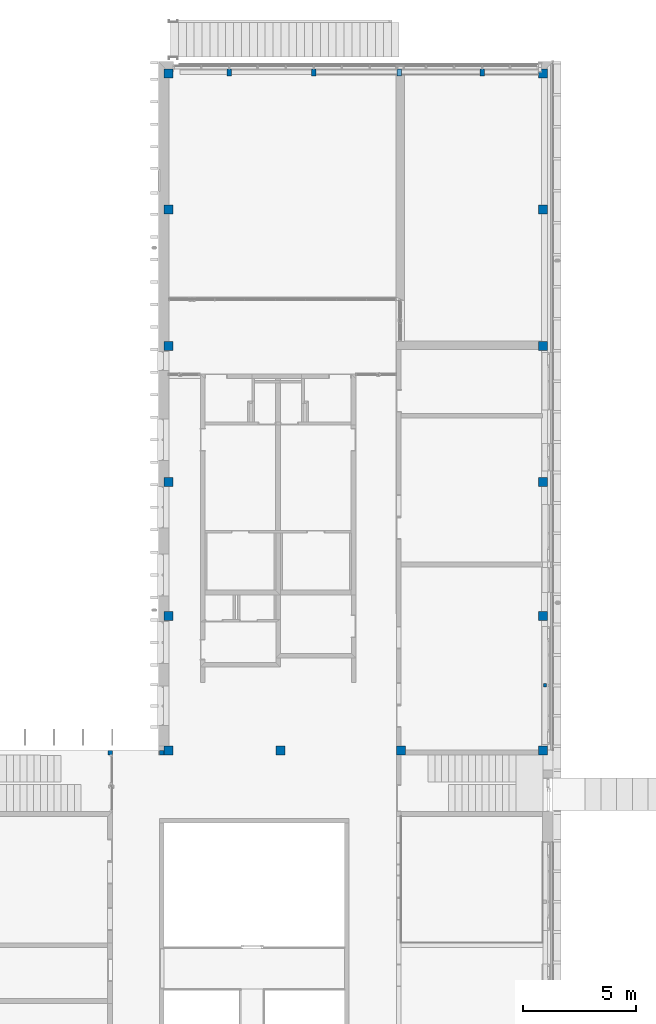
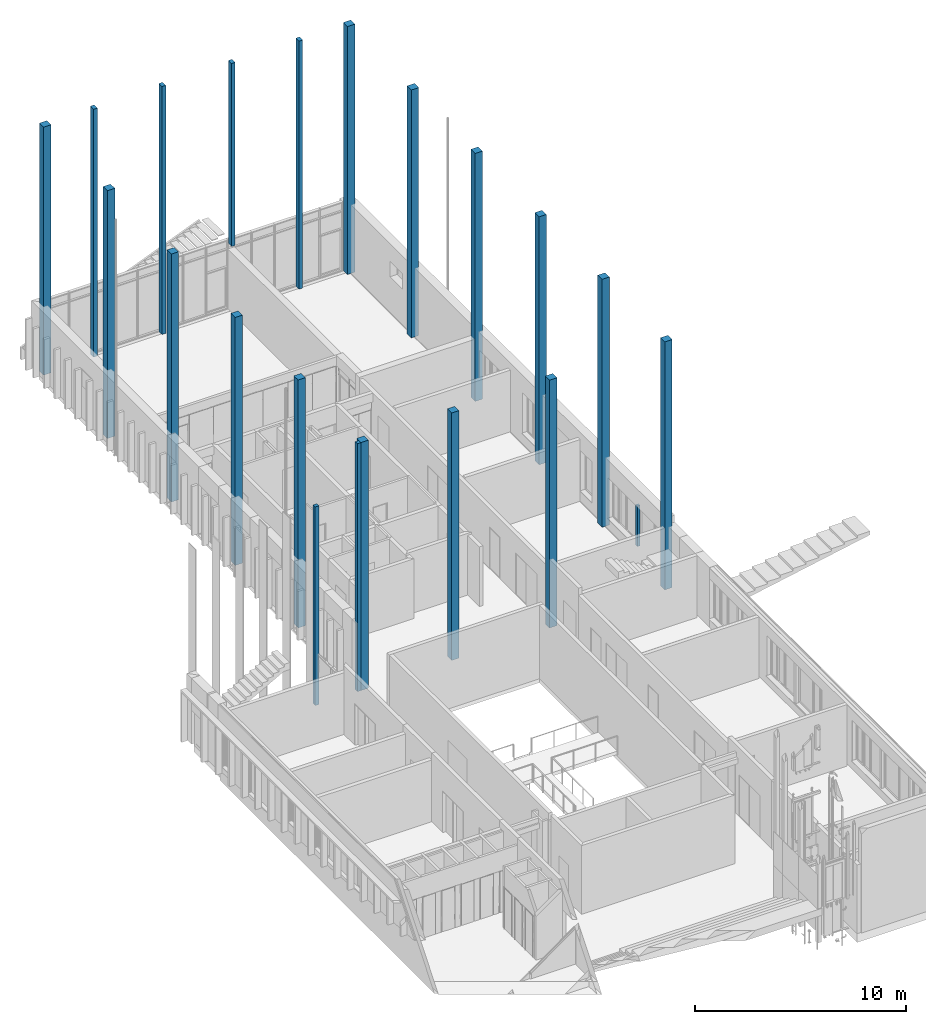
# One storey, part 2 of 89: 22 columns.
"""IFC2X3 building model written with IfcOpenShell, lengths in millimetres."""

from ifc_helpers import new_model, entity, si_unit, converted_unit, derived_unit, money_unit, direction, frame, origin_with_axes, origin_2d_with_axis, place, context, subcontext, project, spatial, rectangle, extrude, material, type_object, element, save


model = new_model("IFC2X3")

# Units and contexts
model_context = context("Model", 3, precision=0.01, world=origin_with_axes(), true_north=direction((0.0, 1.0)))
body_context = subcontext(model_context, "Body", "Model", "MODEL_VIEW")
ifc_project = project(units=[si_unit("LENGTHUNIT", "METRE", prefix="MILLI"), si_unit("AREAUNIT", "SQUARE_METRE"), si_unit("VOLUMEUNIT", "CUBIC_METRE"), converted_unit("PLANEANGLEUNIT", "DEGREE", entity("IfcPlaneAngleMeasure", 0.0174532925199), si_unit("PLANEANGLEUNIT", "RADIAN"), dimensions=[0, 0, 0, 0, 0, 0, 0]), si_unit("SOLIDANGLEUNIT", "STERADIAN"), money_unit("EUR"), converted_unit("TIMEUNIT", "Year", entity("IfcTimeMeasure", 31556926.0), si_unit("TIMEUNIT", "SECOND"), dimensions=[0, 0, 1, 0, 0, 0, 0]), si_unit("MASSUNIT", "GRAM", prefix="KILO"), si_unit("THERMODYNAMICTEMPERATUREUNIT", "DEGREE_CELSIUS"), si_unit("LUMINOUSINTENSITYUNIT", "LUMEN"), si_unit("ENERGYUNIT", "JOULE", prefix="MEGA"), derived_unit("THERMALCONDUCTANCEUNIT", [(si_unit("POWERUNIT", "WATT"), 1), (si_unit("LENGTHUNIT", "METRE"), -1), (si_unit("THERMODYNAMICTEMPERATUREUNIT", "KELVIN"), -1)]), derived_unit("SPECIFICHEATCAPACITYUNIT", [(si_unit("ENERGYUNIT", "JOULE"), 1), (si_unit("MASSUNIT", "GRAM", prefix="KILO"), -1), (si_unit("THERMODYNAMICTEMPERATUREUNIT", "KELVIN"), -1)]), derived_unit("MASSDENSITYUNIT", [(si_unit("MASSUNIT", "GRAM", prefix="KILO"), 1), (si_unit("VOLUMEUNIT", "CUBIC_METRE"), -1)])], contexts=[model_context])

# Site, building, storey
site_placement = place(None, origin_with_axes())
site = spatial("IfcSite", under=ifc_project, at=site_placement, Name="Puškini 31, Narva", CompositionType="ELEMENT")
building_placement = place(site_placement, origin_with_axes())
building = spatial("IfcBuilding", under=site, at=building_placement, Name="Narva Riigigümnaasium", CompositionType="ELEMENT")
storey_placement = place(building_placement, frame((0.0, 0.0, -3300.0), z_axis=(0.0, 0.0, 1.0), x_axis=(1.0, 0.0, 0.0)))
storey = spatial("IfcBuildingStorey", under=building, at=storey_placement, Name="1.korrus -3.3", CompositionType="ELEMENT", Elevation=-3300.0)

# Columns
ifc_material_1 = material(Name="Betoon element")
column_type_1 = type_object("IfcColumnType", Name="Betoon element 400 x 400", PredefinedType="COLUMN")
for number, where, z_axis, x_axis, name in (
    (1, (54000.0000018, 247990.0, 0.0), (0.0, 0.0, 1.0), (0.0, 1.0, 0.0), "Post"),
    (2, (37400.0, 247990.0, 0.0), (0.0, 0.0, 1.0), (0.0, 1.0, 0.0), "Post"),
    (3, (37400.0, 241950.0, 0.0), (0.0, 0.0, 1.0), (0.0, 1.0, 0.0), "Post"),
    (4, (37400.0, 235910.0, 0.0), (0.0, 0.0, 1.0), (0.0, 1.0, 0.0), "Post"),
    (5, (37400.0, 229955.0, 0.0), (0.0, 0.0, 1.0), (0.0, 1.0, 0.0), "Post"),
    (6, (37400.0, 224000.000007, 0.0), (0.0, 0.0, 1.0), (0.0, 1.0, 0.0), "Post"),
):
    element("IfcColumn", number, at=place(storey_placement, frame(where, z_axis=z_axis, x_axis=x_axis)), inside=storey, type_object=column_type_1, material=ifc_material_1, Name=name, ObjectType="COLUMN", context=body_context, shape_type="SweptSolid", body=[
        extrude(rectangle(XDim=400.0, YDim=400.0, at=origin_2d_with_axis()), origin_with_axes(), (0.0, 0.0, 1.0), 14320.0000001),
    ])
column_1_placement = place(storey_placement, frame((42350.0, 224000.0, 0.0), z_axis=(0.0, 0.0, 1.0), x_axis=(0.0, 1.0, 0.0)))
element("IfcColumn", 7, at=column_1_placement, inside=storey, type_object=column_type_1, material=ifc_material_1, Name="Post", ObjectType="COLUMN", context=body_context, shape_type="SweptSolid", body=[
    extrude(rectangle(XDim=400.0, YDim=400.0, at=origin_2d_with_axis()), origin_with_axes(), (0.0, 0.0, 1.0), 14295.0000013),
])
for number, where, z_axis, x_axis, name in (
    (8, (47700.0, 224000.0, 0.0), (0.0, 0.0, 1.0), (0.0, 1.0, 0.0), "Post"),
    (9, (54000.0000018, 235910.0, 0.0), (0.0, 0.0, 1.0), (0.0, 1.0, 0.0), "Post"),
    (10, (54000.0000018, 229955.0, 0.0), (0.0, 0.0, 1.0), (0.0, 1.0, 0.0), "Post"),
    (11, (54000.0000018, 223999.999999, 0.0), (0.0, 0.0, 1.0), (0.0, 1.0, 0.0), "Post"),
):
    element("IfcColumn", number, at=place(storey_placement, frame(where, z_axis=z_axis, x_axis=x_axis)), inside=storey, type_object=column_type_1, material=ifc_material_1, Name=name, ObjectType="COLUMN", context=body_context, shape_type="SweptSolid", body=[
        extrude(rectangle(XDim=400.0, YDim=400.0, at=origin_2d_with_axis()), origin_with_axes(), (0.0, 0.0, 1.0), 14320.0000001),
    ])
column_2_placement = place(storey_placement, frame((37400.0, 254030.0, -1.78736985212e-05), z_axis=(0.0, 0.0, 1.0), x_axis=(0.0, 1.0, 0.0)))
element("IfcColumn", 12, at=column_2_placement, inside=storey, type_object=column_type_1, material=ifc_material_1, Name="Post", ObjectType="COLUMN", context=body_context, shape_type="SweptSolid", body=[
    extrude(rectangle(XDim=400.0, YDim=400.0, at=origin_2d_with_axis()), origin_with_axes(), (0.0, 0.0, 1.0), 14320.0000179),
])
for number, where, z_axis, x_axis, name in (
    (13, (54000.0, 254030.0, 0.0), (0.0, 0.0, 1.0), (0.0, 1.0, 0.0), "Post"),
    (14, (54000.0000018, 241950.0, 0.0), (0.0, 0.0, 1.0), (0.0, 1.0, 0.0), "Post"),
):
    element("IfcColumn", number, at=place(storey_placement, frame(where, z_axis=z_axis, x_axis=x_axis)), inside=storey, type_object=column_type_1, material=ifc_material_1, Name=name, ObjectType="COLUMN", context=body_context, shape_type="SweptSolid", body=[
        extrude(rectangle(XDim=400.0, YDim=400.0, at=origin_2d_with_axis()), origin_with_axes(), (0.0, 0.0, 1.0), 14320.0000001),
    ])
ifc_material_2 = material(Name="ET-06_Teras - Konstruktsioon")
column_type_2 = type_object("IfcColumnType", Name="ET-06_Teras - Konstruktsioon 150 x 150", PredefinedType="COLUMN")
column_3_placement = place(storey_placement, frame((54100.0, 226880.236748, 600.0), z_axis=(0.0, 0.0, 1.0), x_axis=(0.0, 1.0, 0.0)))
element("IfcColumn", 15, at=column_3_placement, inside=storey, type_object=column_type_2, material=ifc_material_2, Name="Post", ObjectType="COLUMN", context=body_context, shape_type="SweptSolid", body=[
    extrude(rectangle(XDim=150.0, YDim=150.0, at=origin_2d_with_axis()), origin_with_axes(), (0.0, 0.0, 1.0), 2339.99999046),
])
column_type_3 = type_object("IfcColumnType", Name="ET-06_Teras - Konstruktsioon 300 x 200", PredefinedType="COLUMN")
column_4_placement = place(storey_placement, frame((47625.0000001, 254080.0, 3760.0), z_axis=(0.0, 0.0, 1.0), x_axis=(0.0, 1.0, 0.0)))
element("IfcColumn", 16, at=column_4_placement, inside=storey, type_object=column_type_3, material=ifc_material_2, Name="Post", ObjectType="COLUMN", context=body_context, shape_type="SweptSolid", body=[
    extrude(rectangle(XDim=300.0, YDim=200.0, at=origin_2d_with_axis()), origin_with_axes(), (0.0, 0.0, 1.0), 10560.0000001),
])
column_5_placement = place(storey_placement, frame((40090.0, 254080.0, 0.0), z_axis=(0.0, 0.0, 1.0), x_axis=(0.0, 1.0, 0.0)))
element("IfcColumn", 17, at=column_5_placement, inside=storey, type_object=column_type_3, material=ifc_material_2, Name="Post", ObjectType="COLUMN", context=body_context, shape_type="SweptSolid", body=[
    extrude(rectangle(XDim=300.0, YDim=200.0, at=origin_2d_with_axis()), origin_with_axes(), (0.0, 0.0, 1.0), 14320.0000001),
])
column_6_placement = place(storey_placement, frame((47625.0000001, 254080.0, 3760.0), z_axis=(0.0, 0.0, 1.0), x_axis=(0.0, 1.0, 0.0)))
element("IfcColumn", 18, at=column_6_placement, inside=storey, type_object=column_type_3, material=ifc_material_2, Name="Post", ObjectType="COLUMN", context=body_context, shape_type="SweptSolid", body=[
    extrude(rectangle(XDim=300.0, YDim=200.0, at=origin_2d_with_axis()), origin_with_axes(), (0.0, 0.0, 1.0), 10560.0000001),
])
for number, where, z_axis, x_axis, name in (
    (19, (43830.0, 254080.0, 0.0), (0.0, 0.0, 1.0), (0.0, 1.0, 0.0), "Post"),
    (20, (51310.0, 254080.0, 0.0), (0.0, 0.0, 1.0), (0.0, 1.0, 0.0), "Post"),
):
    element("IfcColumn", number, at=place(storey_placement, frame(where, z_axis=z_axis, x_axis=x_axis)), inside=storey, type_object=column_type_3, material=ifc_material_2, Name=name, ObjectType="COLUMN", context=body_context, shape_type="SweptSolid", body=[
        extrude(rectangle(XDim=300.0, YDim=200.0, at=origin_2d_with_axis()), origin_with_axes(), (0.0, 0.0, 1.0), 14320.0000001),
    ])
column_type_4 = type_object("IfcColumnType", Name="ET-06_Teras - Konstruktsioon 200 x 200", PredefinedType="COLUMN")
column_7_placement = place(storey_placement, frame((34800.0155843, 223900.0, 0.0), z_axis=(0.0, 0.0, 1.0), x_axis=(0.0, 1.0, 0.0)))
element("IfcColumn", 21, at=column_7_placement, inside=storey, type_object=column_type_4, material=ifc_material_2, Name="Post", ObjectType="COLUMN", context=body_context, shape_type="SweptSolid", body=[
    extrude(rectangle(XDim=200.0, YDim=200.0, at=origin_2d_with_axis()), origin_with_axes(), (0.0, 0.0, 1.0), 11480.0),
])
column_type_5 = type_object("IfcColumnType", Name="Betoon element 200 x 200", PredefinedType="COLUMN")
column_8_placement = place(storey_placement, frame((37100.0, 223900.000007, 0.0), z_axis=(0.0, 0.0, 1.0), x_axis=(0.0, 1.0, 0.0)))
element("IfcColumn", 22, at=column_8_placement, inside=storey, type_object=column_type_5, material=ifc_material_1, Name="Post", ObjectType="COLUMN", context=body_context, shape_type="SweptSolid", body=[
    extrude(rectangle(XDim=200.0, YDim=200.0, at=origin_2d_with_axis()), origin_with_axes(), (0.0, 0.0, 1.0), 14320.0000001),
])

save(model, "model.ifc")
